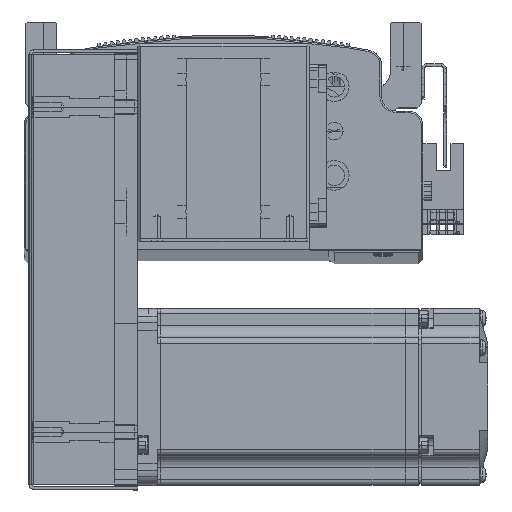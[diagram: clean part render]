
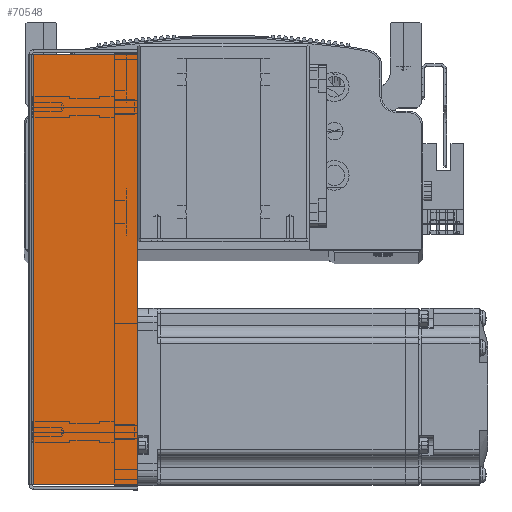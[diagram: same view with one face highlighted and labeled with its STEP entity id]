
A CAD part, top view. The second image highlights one B-rep face of the part: STEP entity #70548.
In plain terms, the highlighted planar face has unit normal (0, 0, 1) as drawn and (0, 0, -1) by its records, which use the part's own axes.
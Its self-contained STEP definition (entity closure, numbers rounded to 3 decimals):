
#9955 = LINE ( 'NONE', #29127, #10043 ) ;
#10043 = VECTOR ( 'NONE', #29122, 1000. ) ;
#12044 = LINE ( 'NONE', #28843, #12046 ) ;
#12046 = VECTOR ( 'NONE', #28812, 1000. ) ;
#12098 = LINE ( 'NONE', #28786, #12110 ) ;
#12110 = VECTOR ( 'NONE', #28803, 1000. ) ;
#12151 = LINE ( 'NONE', #28922, #12198 ) ;
#12198 = VECTOR ( 'NONE', #28918, 1000. ) ;
#13662 = ORIENTED_EDGE ( 'NONE', *, *, #49242, .T. ) ;
#13685 = ORIENTED_EDGE ( 'NONE', *, *, #49223, .F. ) ;
#13735 = ORIENTED_EDGE ( 'NONE', *, *, #49264, .F. ) ;
#13743 = ORIENTED_EDGE ( 'NONE', *, *, #49367, .T. ) ;
#21153 = EDGE_LOOP ( 'NONE', ( #13685, #13662, #13743, #13735 ) ) ;
#28786 = CARTESIAN_POINT ( 'NONE',  ( 74.5, 0.737, -34.5 ) ) ;
#28803 = DIRECTION ( 'NONE',  ( 1., 0., 0. ) ) ;
#28812 = DIRECTION ( 'NONE',  ( 0., 1., 0. ) ) ;
#28843 = CARTESIAN_POINT ( 'NONE',  ( -72.793, 0., -34.5 ) ) ;
#28918 = DIRECTION ( 'NONE',  ( 0., 1., 0. ) ) ;
#28922 = CARTESIAN_POINT ( 'NONE',  ( 72.793, 0., -34.5 ) ) ;
#29122 = DIRECTION ( 'NONE',  ( 1., 0., 0. ) ) ;
#29127 = CARTESIAN_POINT ( 'NONE',  ( 0., 36., -34.5 ) ) ;
#30067 = CARTESIAN_POINT ( 'NONE',  ( -72.793, 36., -34.5 ) ) ;
#30073 = CARTESIAN_POINT ( 'NONE',  ( -72.793, 0.737, -34.5 ) ) ;
#30107 = CARTESIAN_POINT ( 'NONE',  ( 72.793, 0.737, -34.5 ) ) ;
#30122 = CARTESIAN_POINT ( 'NONE',  ( 72.793, 36., -34.5 ) ) ;
#48221 = VERTEX_POINT ( 'NONE', #30073 ) ;
#48226 = VERTEX_POINT ( 'NONE', #30067 ) ;
#48248 = VERTEX_POINT ( 'NONE', #30122 ) ;
#48272 = VERTEX_POINT ( 'NONE', #30107 ) ;
#49223 = EDGE_CURVE ( 'NONE', #48221, #48272, #12098, .T. ) ;
#49242 = EDGE_CURVE ( 'NONE', #48221, #48226, #12044, .T. ) ;
#49264 = EDGE_CURVE ( 'NONE', #48272, #48248, #12151, .T. ) ;
#49367 = EDGE_CURVE ( 'NONE', #48226, #48248, #9955, .T. ) ;
#56297 = PLANE ( 'NONE',  #70698 ) ;
#56303 = CARTESIAN_POINT ( 'NONE',  ( 0., 0., -34.5 ) ) ;
#56306 = DIRECTION ( 'NONE',  ( 0., 0., 1. ) ) ;
#56314 = DIRECTION ( 'NONE',  ( 0., -1., 0. ) ) ;
#60425 = FACE_OUTER_BOUND ( 'NONE', #21153, .T. ) ;
#70548 = ADVANCED_FACE ( 'NONE', ( #60425 ), #56297, .F. ) ;
#70698 = AXIS2_PLACEMENT_3D ( 'NONE', #56303, #56306, #56314 ) ;
